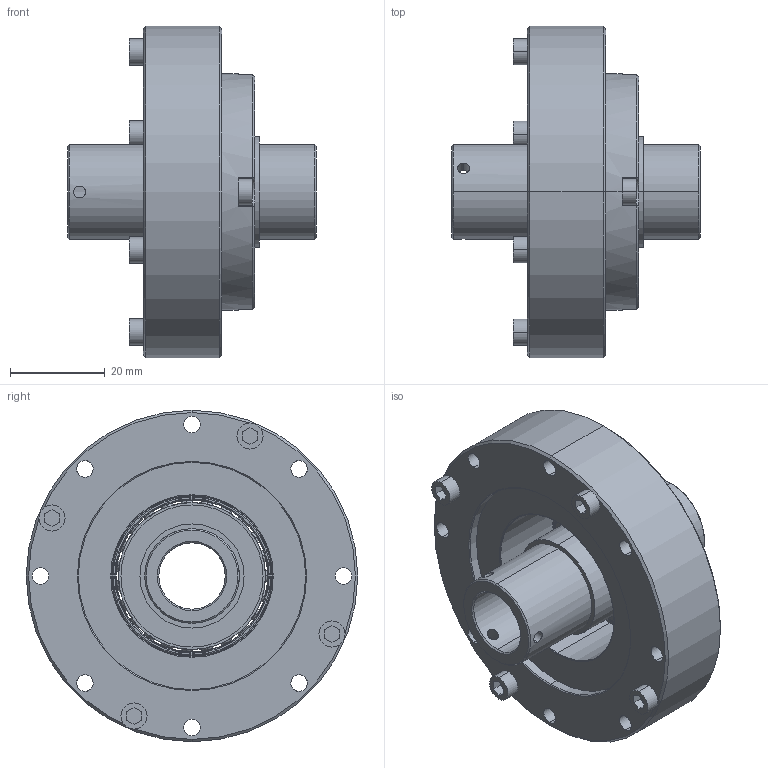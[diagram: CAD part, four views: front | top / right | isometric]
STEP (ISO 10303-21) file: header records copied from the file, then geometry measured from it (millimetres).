
FILE_DESCRIPTION((''),'2;1');
FILE_NAME('LHT-14-U-I_ASM','2017-09-29T',('Administrator'),(''),'PRO/ENGINEER BY PARAMETRIC TECHNOLOGY CORPORATION, 2014200','PRO/ENGINEER BY PARAMETRIC TECHNOLOGY CORPORATION, 2014200','');
FILE_SCHEMA(('AUTOMOTIVE_DESIGN { 1 0 10303 214 1 1 1 1 }'));
Length unit declared in the file: millimetre
Products named in the file (21): MANIFOLD_SOLID_BREP_113; MANIFOLD_SOLID_BREP_114; MANIFOLD_SOLID_BREP_115; MANIFOLD_SOLID_BREP_116; MANIFOLD_SOLID_BREP_117; MANIFOLD_SOLID_BREP_118; MANIFOLD_SOLID_BREP_119; MANIFOLD_SOLID_BREP_120; MANIFOLD_SOLID_BREP_121; MANIFOLD_SOLID_BREP_122; MANIFOLD_SOLID_BREP_123; ADMI85A9D2RG_ASM; PRT0002; PRT0003; PRT0004; PRT0005; PRT0006; ASM0003_ASM; ASM0002_ASM; ASM0001_ASM; LHT-14-U-I_ASM
Assembly tree (42 placements, depth 5):
  LHT-14-U-I_ASM
    ADMI85A9D2RG_ASM
      MANIFOLD_SOLID_BREP_113
      MANIFOLD_SOLID_BREP_114
      MANIFOLD_SOLID_BREP_115
      MANIFOLD_SOLID_BREP_116
      MANIFOLD_SOLID_BREP_117
      MANIFOLD_SOLID_BREP_118
      MANIFOLD_SOLID_BREP_119
      MANIFOLD_SOLID_BREP_120
      MANIFOLD_SOLID_BREP_121
      MANIFOLD_SOLID_BREP_122
      MANIFOLD_SOLID_BREP_123
    ASM0001_ASM
      ASM0002_ASM
        ASM0003_ASM
          PRT0002  x23
          PRT0003
          PRT0004
          PRT0005
          PRT0006
Bounding box: 52.5 x 70 x 70 mm (x, y, z)
Volume: 63993.4 mm3; surface area: 28825.4 mm2
Topology: 38 solids, 38 shells, 589 faces, 1548 edges, 956 vertices
Faces by surface type: cylinder 208, plane 177, sphere 92, cone 76, torus 36
Entity records: 20911 total; most frequent: DIRECTION 3130, CARTESIAN_POINT 2929, ORIENTED_EDGE 2496, AXIS2_PLACEMENT_3D 1298, PRESENTATION_STYLE_ASSIGNMENT 1264, STYLED_ITEM 1264, CURVE_STYLE 1248, EDGE_CURVE 1248
